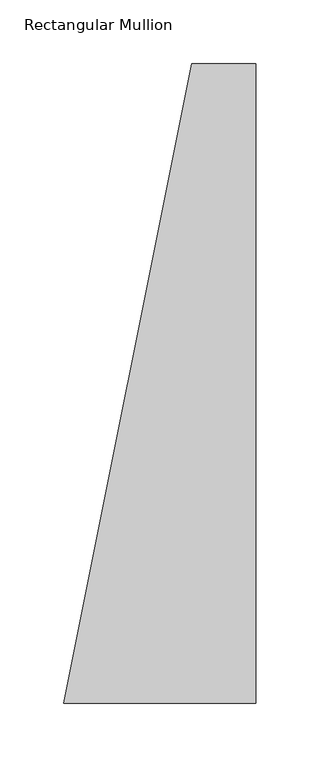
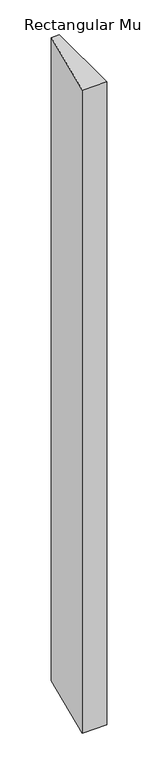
"""IFC4 building model written with IfcOpenShell, lengths in millimetres: member geometry, Rectangular Mullion : 500(350+150)x150x50mm."""

from ifc_helpers import new_model, si_unit, frame, origin, place, context, project, spatial, polyline, outline, extrude, source, transform, mapped, element, save


def rectangular_mullion_0bf9f600(model_context):
    return source(origin(), model_context, "Body", "SweptSolid", [
        extrude(outline(polyline([(0.0, 150.0), (0.0, -350.0), (-150.0, -350.0), (-50.0, 150.0), (0.0, 150.0)])), frame((0.0, 0.0, -4150.0), z_axis=(0.0, 0.0, 1.0), x_axis=(1.0, 0.0, 0.0)), (0.0, 0.0, 1.0), 4150.0),
    ])


if __name__ == "__main__":
    model = new_model("IFC4")
    model_context = context("Model", 3, world=origin())
    ifc_project = project(units=[si_unit("LENGTHUNIT", "METRE", prefix="MILLI")], contexts=[model_context])
    site = spatial("IfcSite", under=ifc_project)
    building = spatial("IfcBuilding", under=site)
    placement = place(None, origin())
    rectangular_mullion_shape = rectangular_mullion_0bf9f600(model_context)
    element("IfcMember", 1, ObjectType="Rectangular Mullion : 500(350+150)x150x50mm", at=placement, inside=building, context=model_context, shape_type="MappedRepresentation", body=[
        mapped(rectangular_mullion_shape, transform((0.0, 0.0, 0.0), x_axis=(1.0, 0.0, 0.0), y_axis=(0.0, 1.0, 0.0), z_axis=(0.0, 0.0, 1.0))),
    ])
    save(model, "model.ifc")
